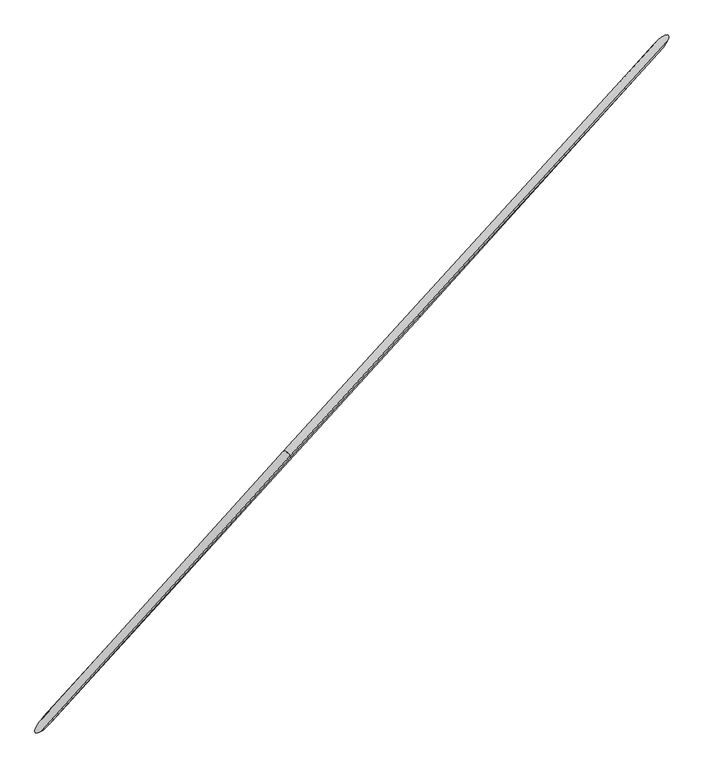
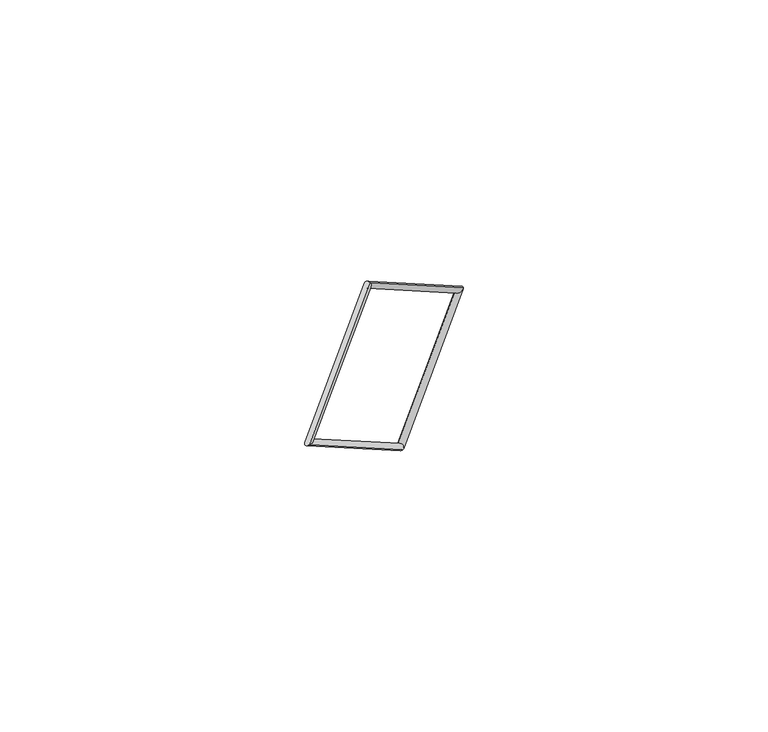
"""IFC4 building model written with IfcOpenShell, lengths in millimetres: proxy geometry, Família5 : Família5."""

from ifc_helpers import new_model, si_unit, frame, origin, place, context, project, spatial, ellipse_curve, source, transform, mapped, element, save
from ifc_brep_helpers import cylinder_surface, advanced_brep


def generic_models_33cf23df(model_context):
    return source(origin(), model_context, "Body", "AdvancedBrep", [
        advanced_brep(
        [(-1478.3660203, -1537.5667277, 27.2675441), (-1406.2393261, -1370.3891916, -27.2675441), (614.869034, 867.2664928, -27.2675441), (669.7363125, 840.6894265, 27.2675441), (3764.561397, 4328.5775495, -3294.0632818), (3923.9875214, 4416.9039873, -3347.9744649), (1743.4530369, 2090.921865, -3294.0632818), (1775.8851885, 2038.647833, -3347.9744649)],
        [
            (0, 1, ellipse_curve(frame((-1442.3026732, -1453.9779597, 0.0), z_axis=(0.1973447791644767, 0.22603669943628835, 0.9539195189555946), x_axis=(-0.6405889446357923, -0.706849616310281, 0.3000157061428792)), 133.3244781, 40.0)),
            (1, 2),
            (2, 3, ellipse_curve(frame((642.3026732, 853.9779597, 0.0), z_axis=(-0.6405889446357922, -0.7068496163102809, 0.30001570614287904), x_axis=(-0.1973447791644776, -0.22603669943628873, -0.9539195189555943)), 41.9316689, 40.0)),
            (3, 0),
            (1, 0, ellipse_curve(frame((-1442.3026732, -1453.9779597, 0.0), z_axis=(0.1973447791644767, 0.22603669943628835, 0.9539195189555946), x_axis=(-0.6405889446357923, -0.706849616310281, 0.3000157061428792)), 133.3244781, 40.0)),
            (3, 2, ellipse_curve(frame((642.3026732, 853.9779597, 0.0), z_axis=(-0.6405889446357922, -0.7068496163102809, 0.30001570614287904), x_axis=(-0.1973447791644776, -0.22603669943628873, -0.9539195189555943)), 41.9316689, 40.0)),
            (2, 4),
            (4, 5, ellipse_curve(frame((3844.2744592, 4372.7407684, -3321.0188733), z_axis=(0.19734477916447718, 0.22603669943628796, 0.9539195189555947), x_axis=(-0.6405889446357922, -0.7068496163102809, 0.30001570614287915)), 133.3244781, 40.0)),
            (5, 3),
            (5, 4, ellipse_curve(frame((3844.2744592, 4372.7407684, -3321.0188733), z_axis=(0.19734477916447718, 0.22603669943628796, 0.9539195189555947), x_axis=(-0.6405889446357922, -0.7068496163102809, 0.30001570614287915)), 133.3244781, 40.0)),
            (4, 6),
            (6, 7, ellipse_curve(frame((1759.6691127, 2064.784849, -3321.0188733), z_axis=(0.6405889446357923, 0.7068496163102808, -0.30001570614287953), x_axis=(0.19734477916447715, 0.22603669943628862, 0.9539195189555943)), 41.9316689, 40.0)),
            (7, 5),
            (7, 6, ellipse_curve(frame((1759.6691127, 2064.784849, -3321.0188733), z_axis=(0.6405889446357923, 0.7068496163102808, -0.30001570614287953), x_axis=(0.19734477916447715, 0.22603669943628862, 0.9539195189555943)), 41.9316689, 40.0)),
            (6, 1),
            (0, 7),
        ],
        [
            cylinder_surface(frame((-1442.3026732, -1453.9779597, 0.0), z_axis=(-0.6702862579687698, -0.7421026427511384, 0.0), x_axis=(-0.5058829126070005, 0.45692650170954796, 0.7316424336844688)), 40.0),
            cylinder_surface(frame((642.3026732, 853.9779597, 0.0), z_axis=(-0.5518715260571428, -0.6064716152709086, 0.5723897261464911), x_axis=(-0.22326929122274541, 0.7687728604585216, 0.5992821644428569)), 40.0),
            cylinder_surface(frame((3844.2744592, 4372.7407684, -3321.0188733), z_axis=(0.6702862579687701, 0.7421026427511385, 0.0), x_axis=(-0.5000953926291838, 0.45169906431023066, -0.738831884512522)), 40.0),
            cylinder_surface(frame((1759.6691127, 2064.784849, -3321.0188733), z_axis=(0.551871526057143, 0.6064716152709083, -0.5723897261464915), x_axis=(-0.7827090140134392, 0.13985270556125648, -0.6064716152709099)), 40.0),
        ],
        [
            (0, [[1, 2, 3, 4]]),
            (0, [[5, -4, 6, -2]]),
            (1, [[-3, 7, 8, 9]]),
            (1, [[-6, -9, 10, -7]]),
            (2, [[-8, 11, 12, 13]]),
            (2, [[-10, -13, 14, -11]]),
            (3, [[-12, 15, -1, 16]]),
            (3, [[-14, -16, -5, -15]]),
        ],
    ),
    ])


if __name__ == "__main__":
    model = new_model("IFC4")
    model_context = context("Model", 3, world=origin())
    ifc_project = project(units=[si_unit("LENGTHUNIT", "METRE", prefix="MILLI")], contexts=[model_context])
    site = spatial("IfcSite", under=ifc_project)
    building = spatial("IfcBuilding", under=site)
    placement = place(None, origin())
    generic_models_shape = generic_models_33cf23df(model_context)
    element("IfcBuildingElementProxy", 1, Name="Família5 : Família5", ObjectType="Família5 : Família5", at=placement, inside=building, context=model_context, shape_type="MappedRepresentation", body=[
        mapped(generic_models_shape, transform((0.0, 0.0, 0.0), x_axis=(1.0, 0.0, 0.0), y_axis=(0.0, 1.0, 0.0), z_axis=(0.0, 0.0, 1.0))),
    ])
    save(model, "model.ifc")
